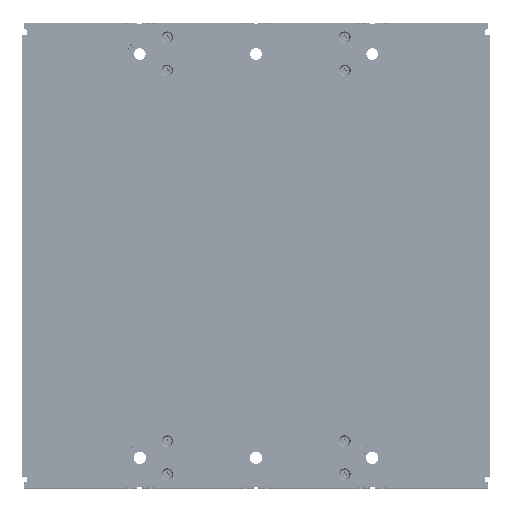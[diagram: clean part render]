
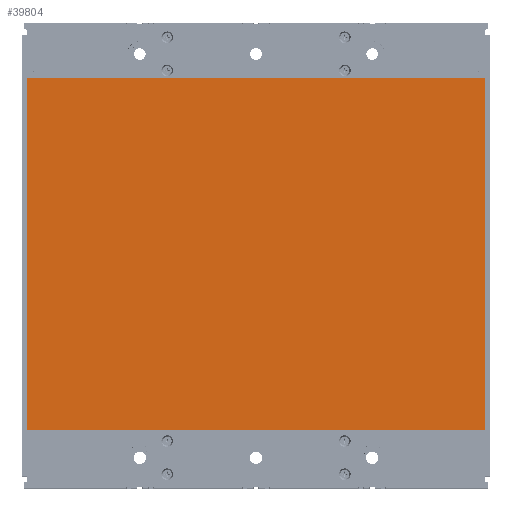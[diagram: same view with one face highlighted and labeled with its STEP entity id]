
A CAD part, top view. The second image highlights one B-rep face of the part: STEP entity #39804.
In plain terms, the highlighted planar face has unit normal (0, 0, 1).
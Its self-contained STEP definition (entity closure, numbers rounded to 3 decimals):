
#21920=DIRECTION('',(0.,-1.,0.));
#21921=VECTOR('',#21920,212.1);
#21922=CARTESIAN_POINT('',(121.108,153.315,119.7));
#21923=LINE('',#21922,#21921);
#21924=DIRECTION('',(-1.,0.,0.));
#21925=VECTOR('',#21924,275.7);
#21926=CARTESIAN_POINT('',(121.108,-58.785,119.7));
#21927=LINE('',#21926,#21925);
#21928=DIRECTION('',(1.,0.,0.));
#21929=VECTOR('',#21928,275.7);
#21930=CARTESIAN_POINT('',(-154.592,153.315,119.7));
#21931=LINE('',#21930,#21929);
#21948=DIRECTION('',(0.,-1.,0.));
#21949=VECTOR('',#21948,212.1);
#21950=CARTESIAN_POINT('',(-154.592,153.315,119.7));
#21951=LINE('',#21950,#21949);
#35299=CARTESIAN_POINT('',(121.108,153.315,119.7));
#35301=VERTEX_POINT('',#35299);
#35303=CARTESIAN_POINT('',(-154.592,153.315,119.7));
#35304=VERTEX_POINT('',#35303);
#35311=CARTESIAN_POINT('',(121.108,-58.785,119.7));
#35312=VERTEX_POINT('',#35311);
#35315=CARTESIAN_POINT('',(-154.592,-58.785,119.7));
#35316=VERTEX_POINT('',#35315);
#39791=CARTESIAN_POINT('',(0.,0.,119.7));
#39792=DIRECTION('',(0.,0.,1.));
#39793=DIRECTION('',(1.,0.,0.));
#39794=AXIS2_PLACEMENT_3D('',#39791,#39792,#39793);
#39795=PLANE('',#39794);
#39796=ORIENTED_EDGE('',*,*,#39781,.T.);
#39798=ORIENTED_EDGE('',*,*,#39797,.T.);
#39800=ORIENTED_EDGE('',*,*,#39799,.F.);
#39801=ORIENTED_EDGE('',*,*,#39760,.T.);
#39802=EDGE_LOOP('',(#39796,#39798,#39800,#39801));
#39803=FACE_OUTER_BOUND('',#39802,.F.);
#39804=ADVANCED_FACE('',(#39803),#39795,.T.);
#39760=EDGE_CURVE('',#35304,#35301,#21931,.T.);
#39781=EDGE_CURVE('',#35301,#35312,#21923,.T.);
#39797=EDGE_CURVE('',#35312,#35316,#21927,.T.);
#39799=EDGE_CURVE('',#35304,#35316,#21951,.T.);
